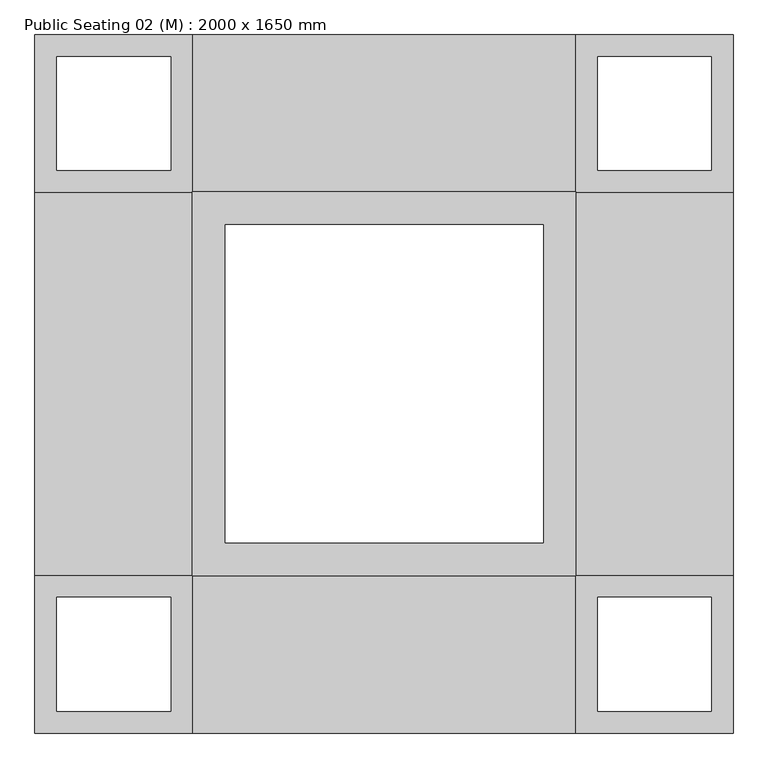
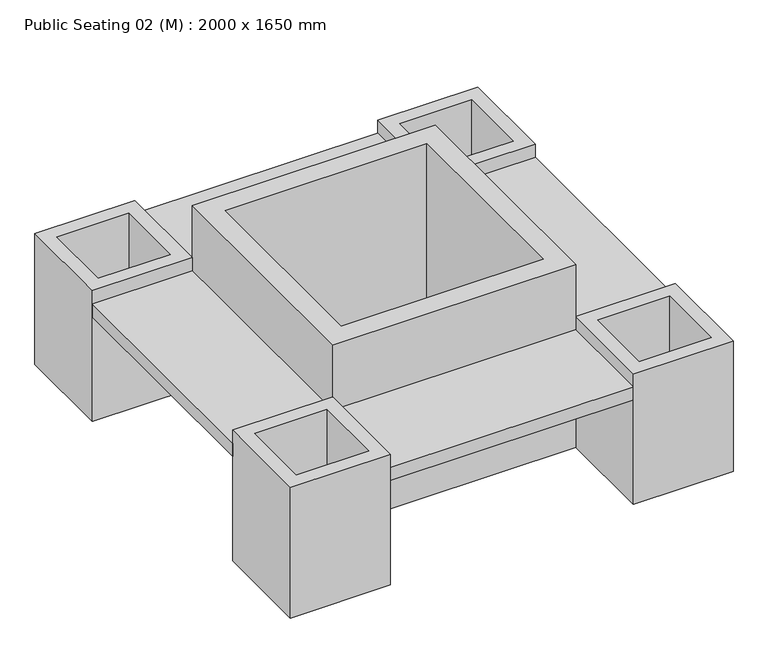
"""IFC4 building model written with IfcOpenShell, lengths in millimetres: geographic element geometry, Public Seating 02 (M) : 2000 x 1650 mm."""

from ifc_helpers import new_model, si_unit, frame, origin, origin_with_axes, place, context, project, spatial, polyline, outline, extrude, source, transform, mapped, element, save


def public_seating_02_m_2000_x_1650_mm_e61fd811(model_context):
    return source(origin(), model_context, "Body", "SweptSolid", [
        extrude(outline(polyline([(788.8927527, -810.8481737), (428.8927527, -810.8481737), (428.8927527, -450.0), (788.8927527, -450.0), (788.8927527, -810.8481737)]), holes=[polyline([(738.8927527, -760.8481737), (738.8927527, -500.0), (478.8927527, -500.0), (478.8927527, -760.8481737), (738.8927527, -760.8481737)])]), origin_with_axes(), (0.0, 0.0, 1.0), 500.0),
        extrude(outline(polyline([(788.8927527, 789.1518263), (788.8927527, 429.1518263), (428.8927527, 429.1518263), (428.8927527, 789.1518263), (788.8927527, 789.1518263)]), holes=[polyline([(738.8927527, 739.1518263), (478.8927527, 739.1518263), (478.8927527, 479.1518263), (738.8927527, 479.1518263), (738.8927527, 739.1518263)])]), origin_with_axes(), (0.0, 0.0, 1.0), 500.0),
        extrude(outline(polyline([(-450.0, 429.1518263), (-811.1072473, 429.1518263), (-811.1072473, 789.1518263), (-450.0, 789.1518263), (-450.0, 429.1518263)]), holes=[polyline([(-500.0, 479.1518263), (-500.0, 739.1518263), (-761.1072473, 739.1518263), (-761.1072473, 479.1518263), (-500.0, 479.1518263)])]), origin_with_axes(), (0.0, 0.0, 1.0), 500.0),
        extrude(outline(polyline([(-811.1072473, -810.8481737), (-811.1072473, -450.0), (-450.0, -450.0), (-450.0, -810.8481737), (-811.1072473, -810.8481737)]), holes=[polyline([(-761.1072473, -760.8481737), (-500.0, -760.8481737), (-500.0, -500.0), (-761.1072473, -500.0), (-761.1072473, -760.8481737)])]), origin_with_axes(), (0.0, 0.0, 1.0), 500.0),
        extrude(outline(polyline([(788.8927527, -450.0), (428.8927527, -450.0), (428.8927527, 429.1518263), (788.8927527, 429.1518263), (788.8927527, -450.0)])), frame((0.0, 0.0, 400.0), z_axis=(0.0, 0.0, 1.0), x_axis=(1.0, 0.0, 0.0)), (0.0, 0.0, 1.0), 50.0),
        extrude(outline(polyline([(-811.1072473, -450.0), (-811.1072473, 429.1518263), (-450.0, 429.1518263), (-450.0, -450.0), (-811.1072473, -450.0)])), frame((0.0, 0.0, 400.0), z_axis=(0.0, 0.0, 1.0), x_axis=(1.0, 0.0, 0.0)), (0.0, 0.0, 1.0), 50.0),
        extrude(outline(polyline([(428.8927527, 428.8927527), (-450.0, 428.8927527), (-450.0, 789.1518263), (428.8927527, 789.1518263), (428.8927527, 428.8927527)])), frame((0.0, 0.0, 400.0), z_axis=(0.0, 0.0, 1.0), x_axis=(1.0, 0.0, 0.0)), (0.0, 0.0, 1.0), 50.0),
        extrude(outline(polyline([(428.8927527, -450.0), (428.8927527, -810.8481737), (-450.0, -810.8481737), (-450.0, -450.0), (428.8927527, -450.0)])), frame((0.0, 0.0, 400.0), z_axis=(0.0, 0.0, 1.0), x_axis=(1.0, 0.0, 0.0)), (0.0, 0.0, 1.0), 50.0),
        extrude(outline(polyline([(428.8927527, -450.0), (-450.0, -450.0), (-450.0, 429.1518263), (428.8927527, 429.1518263), (428.8927527, -450.0)]), holes=[polyline([(353.8927527, -375.0), (353.8927527, 353.8927527), (-375.0, 353.8927527), (-375.0, -375.0), (353.8927527, -375.0)])]), origin_with_axes(), (0.0, 0.0, 1.0), 700.0),
    ])


if __name__ == "__main__":
    model = new_model("IFC4")
    model_context = context("Model", 3, world=origin())
    ifc_project = project(units=[si_unit("LENGTHUNIT", "METRE", prefix="MILLI")], contexts=[model_context])
    site = spatial("IfcSite", under=ifc_project)
    building = spatial("IfcBuilding", under=site)
    placement = place(None, origin())
    public_seating_02_m_2000_x_1650_mm_shape = public_seating_02_m_2000_x_1650_mm_e61fd811(model_context)
    element("IfcGeographicElement", 1, ObjectType="Public Seating 02 (M) : 2000 x 1650 mm", at=placement, inside=building, context=model_context, shape_type="MappedRepresentation", body=[
        mapped(public_seating_02_m_2000_x_1650_mm_shape, transform((0.0, 0.0, 0.0), x_axis=(1.0, 0.0, 0.0), y_axis=(0.0, 1.0, 0.0), z_axis=(0.0, 0.0, 1.0))),
    ])
    save(model, "model.ifc")
